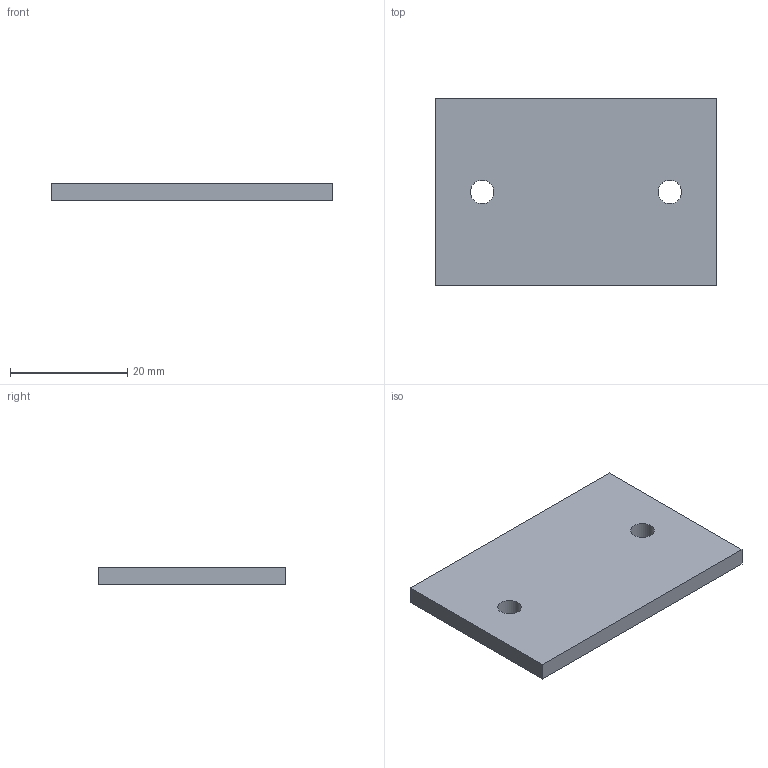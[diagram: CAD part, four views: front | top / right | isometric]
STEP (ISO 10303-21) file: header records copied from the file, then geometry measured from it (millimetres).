
FILE_DESCRIPTION(('Open CASCADE Model'),'2;1');
FILE_NAME('Open CASCADE Shape Model','2026-10-23T19:38:57',('Author'),( 'Open CASCADE'),'Open CASCADE STEP processor 8.0','Open CASCADE 8.0' ,'Unknown');
FILE_SCHEMA(('AUTOMOTIVE_DESIGN { 1 0 10303 214 1 1 1 1 }'));
Length unit declared in the file: millimetre
Products named in the file (1): Open CASCADE STEP translator 8.0 1
Bounding box: 48 x 32 x 3 mm (x, y, z)
Volume: 4532.6 mm3; surface area: 3577.1 mm2
Topology: 1 solids, 1 shells, 8 faces, 18 edges, 12 vertices
Faces by surface type: plane 6, cylinder 2
Full cylindrical faces by diameter (mm): 4 x2
Entity records: 478 total; most frequent: DIRECTION 76, CARTESIAN_POINT 75, LINE 46, VECTOR 46, ORIENTED_EDGE 36, PCURVE 36, DEFINITIONAL_REPRESENTATION 36, EDGE_CURVE 18
